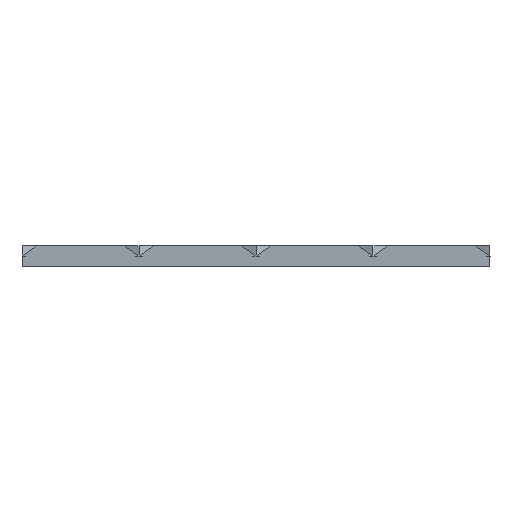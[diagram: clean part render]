
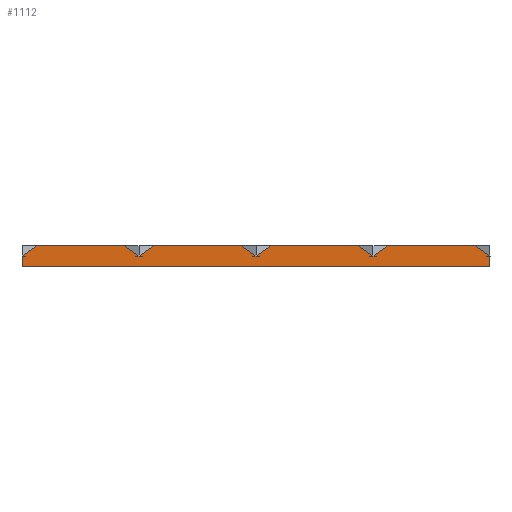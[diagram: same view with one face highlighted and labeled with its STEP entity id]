
A CAD part, front view. The second image highlights one B-rep face of the part: STEP entity #1112.
In plain terms, the highlighted planar face has unit normal (0, -1, 0).
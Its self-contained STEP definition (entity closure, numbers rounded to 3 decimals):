
#47 = LINE ( 'NONE', #5683, #1549 ) ;
#234 = VECTOR ( 'NONE', #5910, 1000. ) ;
#362 = LINE ( 'NONE', #6478, #7223 ) ;
#381 = VERTEX_POINT ( 'NONE', #5851 ) ;
#440 = EDGE_CURVE ( 'NONE', #7682, #7675, #714, .T. ) ;
#468 = LINE ( 'NONE', #7478, #7320 ) ;
#510 = LINE ( 'NONE', #6303, #5243 ) ;
#660 = CARTESIAN_POINT ( 'NONE',  ( -235.774, -580., -51.687 ) ) ;
#714 = LINE ( 'NONE', #5843, #5472 ) ;
#752 = VERTEX_POINT ( 'NONE', #6982 ) ;
#802 = EDGE_CURVE ( 'NONE', #2626, #6455, #4354, .T. ) ;
#805 = ORIENTED_EDGE ( 'NONE', *, *, #6448, .T. ) ;
#806 = ORIENTED_EDGE ( 'NONE', *, *, #5131, .T. ) ;
#995 = CARTESIAN_POINT ( 'NONE',  ( 127.322, -580., 25. ) ) ;
#1018 = VERTEX_POINT ( 'NONE', #1041 ) ;
#1022 = ORIENTED_EDGE ( 'NONE', *, *, #1605, .T. ) ;
#1041 = CARTESIAN_POINT ( 'NONE',  ( -290., -580., 12.5 ) ) ;
#1112 = ADVANCED_FACE ( 'NONE', ( #6462 ), #1185, .F. ) ;
#1156 = LINE ( 'NONE', #1666, #4766 ) ;
#1185 = PLANE ( 'NONE',  #6546 ) ;
#1205 = DIRECTION ( 'NONE',  ( 0., 0., -1. ) ) ;
#1229 = ORIENTED_EDGE ( 'NONE', *, *, #6730, .F. ) ;
#1462 = VECTOR ( 'NONE', #5927, 1000. ) ;
#1549 = VECTOR ( 'NONE', #2471, 1000. ) ;
#1603 = ORIENTED_EDGE ( 'NONE', *, *, #7677, .F. ) ;
#1605 = EDGE_CURVE ( 'NONE', #2560, #7675, #510, .T. ) ;
#1611 = CARTESIAN_POINT ( 'NONE',  ( -284.107, -580., 16.667 ) ) ;
#1666 = CARTESIAN_POINT ( 'NONE',  ( -290., -580., 25. ) ) ;
#1726 = VECTOR ( 'NONE', #6121, 1000. ) ;
#1814 = DIRECTION ( 'NONE',  ( 0., 1., 0. ) ) ;
#1977 = CARTESIAN_POINT ( 'NONE',  ( -162.678, -580., 25. ) ) ;
#2019 = EDGE_CURVE ( 'NONE', #2626, #4154, #3177, .T. ) ;
#2144 = ORIENTED_EDGE ( 'NONE', *, *, #802, .T. ) ;
#2218 = DIRECTION ( 'NONE',  ( 1., 0., 0. ) ) ;
#2379 = EDGE_CURVE ( 'NONE', #2560, #6219, #8305, .T. ) ;
#2391 = DIRECTION ( 'NONE',  ( 1., 0., 0. ) ) ;
#2439 = LINE ( 'NONE', #5458, #3956 ) ;
#2460 = CARTESIAN_POINT ( 'NONE',  ( 290., -580., 25. ) ) ;
#2471 = DIRECTION ( 'NONE',  ( 1., 0., 0. ) ) ;
#2560 = VERTEX_POINT ( 'NONE', #5454 ) ;
#2566 = EDGE_LOOP ( 'NONE', ( #1603, #7697, #5441, #3518, #805, #6522, #5165, #7887, #1022, #3808, #1229, #806, #7009, #7684, #2144 ) ) ;
#2620 = DIRECTION ( 'NONE',  ( -0.816, 0., -0.577 ) ) ;
#2625 = DIRECTION ( 'NONE',  ( 0.816, 0., -0.577 ) ) ;
#2626 = VERTEX_POINT ( 'NONE', #7460 ) ;
#2872 = VECTOR ( 'NONE', #1205, 1000. ) ;
#2885 = CARTESIAN_POINT ( 'NONE',  ( 145., -580., 12.5 ) ) ;
#2925 = VERTEX_POINT ( 'NONE', #3664 ) ;
#3177 = LINE ( 'NONE', #3999, #7013 ) ;
#3518 = ORIENTED_EDGE ( 'NONE', *, *, #7209, .T. ) ;
#3526 = DIRECTION ( 'NONE',  ( 0.816, 0., -0.577 ) ) ;
#3600 = DIRECTION ( 'NONE',  ( -0.816, 0., -0.577 ) ) ;
#3620 = EDGE_CURVE ( 'NONE', #4154, #4350, #7097, .T. ) ;
#3664 = CARTESIAN_POINT ( 'NONE',  ( 290., -580., 12.5 ) ) ;
#3808 = ORIENTED_EDGE ( 'NONE', *, *, #440, .F. ) ;
#3956 = VECTOR ( 'NONE', #3526, 1000. ) ;
#3999 = CARTESIAN_POINT ( 'NONE',  ( -290., -580., 25. ) ) ;
#4074 = EDGE_CURVE ( 'NONE', #6219, #2925, #362, .T. ) ;
#4143 = VECTOR ( 'NONE', #7747, 1000. ) ;
#4154 = VERTEX_POINT ( 'NONE', #6718 ) ;
#4350 = VERTEX_POINT ( 'NONE', #7618 ) ;
#4354 = LINE ( 'NONE', #660, #4143 ) ;
#4356 = LINE ( 'NONE', #5426, #7596 ) ;
#4766 = VECTOR ( 'NONE', #6172, 1000. ) ;
#5131 = EDGE_CURVE ( 'NONE', #381, #4350, #468, .T. ) ;
#5165 = ORIENTED_EDGE ( 'NONE', *, *, #4074, .F. ) ;
#5243 = VECTOR ( 'NONE', #2620, 1000. ) ;
#5265 = EDGE_CURVE ( 'NONE', #2925, #6269, #6312, .T. ) ;
#5409 = LINE ( 'NONE', #6239, #5507 ) ;
#5426 = CARTESIAN_POINT ( 'NONE',  ( -290., -580., 25. ) ) ;
#5441 = ORIENTED_EDGE ( 'NONE', *, *, #7945, .T. ) ;
#5454 = CARTESIAN_POINT ( 'NONE',  ( 162.678, -580., 25. ) ) ;
#5458 = CARTESIAN_POINT ( 'NONE',  ( -247.559, -580., 85.02 ) ) ;
#5472 = VECTOR ( 'NONE', #6531, 1000. ) ;
#5507 = VECTOR ( 'NONE', #2391, 1000. ) ;
#5683 = CARTESIAN_POINT ( 'NONE',  ( -290., -580., 25. ) ) ;
#5843 = CARTESIAN_POINT ( 'NONE',  ( -150.893, -580., 221.728 ) ) ;
#5851 = CARTESIAN_POINT ( 'NONE',  ( 17.678, -580., 25. ) ) ;
#5910 = DIRECTION ( 'NONE',  ( 0.816, 0., -0.577 ) ) ;
#5927 = DIRECTION ( 'NONE',  ( 1., 0., 0. ) ) ;
#6121 = DIRECTION ( 'NONE',  ( -0.816, 0., -0.577 ) ) ;
#6172 = DIRECTION ( 'NONE',  ( 0., 0., -1. ) ) ;
#6219 = VERTEX_POINT ( 'NONE', #6629 ) ;
#6239 = CARTESIAN_POINT ( 'NONE',  ( -290., -580., 0. ) ) ;
#6269 = VERTEX_POINT ( 'NONE', #6716 ) ;
#6303 = CARTESIAN_POINT ( 'NONE',  ( -139.107, -580., -188.394 ) ) ;
#6312 = LINE ( 'NONE', #2460, #2872 ) ;
#6324 = DIRECTION ( 'NONE',  ( 0., 0., 1. ) ) ;
#6448 = EDGE_CURVE ( 'NONE', #752, #6269, #5409, .T. ) ;
#6455 = VERTEX_POINT ( 'NONE', #6891 ) ;
#6462 = FACE_OUTER_BOUND ( 'NONE', #2566, .T. ) ;
#6478 = CARTESIAN_POINT ( 'NONE',  ( -102.559, -580., 290.081 ) ) ;
#6522 = ORIENTED_EDGE ( 'NONE', *, *, #5265, .F. ) ;
#6531 = DIRECTION ( 'NONE',  ( 0.816, 0., -0.577 ) ) ;
#6546 = AXIS2_PLACEMENT_3D ( 'NONE', #8201, #1814, #6324 ) ;
#6629 = CARTESIAN_POINT ( 'NONE',  ( 272.322, -580., 25. ) ) ;
#6716 = CARTESIAN_POINT ( 'NONE',  ( 290., -580., 0. ) ) ;
#6718 = CARTESIAN_POINT ( 'NONE',  ( -17.678, -580., 25. ) ) ;
#6730 = EDGE_CURVE ( 'NONE', #381, #7682, #47, .T. ) ;
#6891 = CARTESIAN_POINT ( 'NONE',  ( -145., -580., 12.5 ) ) ;
#6982 = CARTESIAN_POINT ( 'NONE',  ( -290., -580., 0. ) ) ;
#7009 = ORIENTED_EDGE ( 'NONE', *, *, #3620, .F. ) ;
#7013 = VECTOR ( 'NONE', #7241, 1000. ) ;
#7097 = LINE ( 'NONE', #7857, #234 ) ;
#7209 = EDGE_CURVE ( 'NONE', #1018, #752, #1156, .T. ) ;
#7223 = VECTOR ( 'NONE', #2625, 1000. ) ;
#7237 = CARTESIAN_POINT ( 'NONE',  ( -290., -580., 25. ) ) ;
#7241 = DIRECTION ( 'NONE',  ( 1., 0., 0. ) ) ;
#7266 = CARTESIAN_POINT ( 'NONE',  ( -272.322, -580., 25. ) ) ;
#7320 = VECTOR ( 'NONE', #3600, 1000. ) ;
#7460 = CARTESIAN_POINT ( 'NONE',  ( -127.322, -580., 25. ) ) ;
#7478 = CARTESIAN_POINT ( 'NONE',  ( -187.441, -580., -120.041 ) ) ;
#7535 = VERTEX_POINT ( 'NONE', #7266 ) ;
#7596 = VECTOR ( 'NONE', #2218, 1000. ) ;
#7618 = CARTESIAN_POINT ( 'NONE',  ( 0., -580., 12.5 ) ) ;
#7646 = EDGE_CURVE ( 'NONE', #7535, #7889, #4356, .T. ) ;
#7675 = VERTEX_POINT ( 'NONE', #2885 ) ;
#7677 = EDGE_CURVE ( 'NONE', #7889, #6455, #2439, .T. ) ;
#7682 = VERTEX_POINT ( 'NONE', #995 ) ;
#7684 = ORIENTED_EDGE ( 'NONE', *, *, #2019, .F. ) ;
#7697 = ORIENTED_EDGE ( 'NONE', *, *, #7646, .F. ) ;
#7747 = DIRECTION ( 'NONE',  ( -0.816, 0., -0.577 ) ) ;
#7857 = CARTESIAN_POINT ( 'NONE',  ( -199.226, -580., 153.374 ) ) ;
#7887 = ORIENTED_EDGE ( 'NONE', *, *, #2379, .F. ) ;
#7889 = VERTEX_POINT ( 'NONE', #1977 ) ;
#7945 = EDGE_CURVE ( 'NONE', #7535, #1018, #8164, .T. ) ;
#8164 = LINE ( 'NONE', #1611, #1726 ) ;
#8201 = CARTESIAN_POINT ( 'NONE',  ( -290., -580., 25. ) ) ;
#8305 = LINE ( 'NONE', #7237, #1462 ) ;
